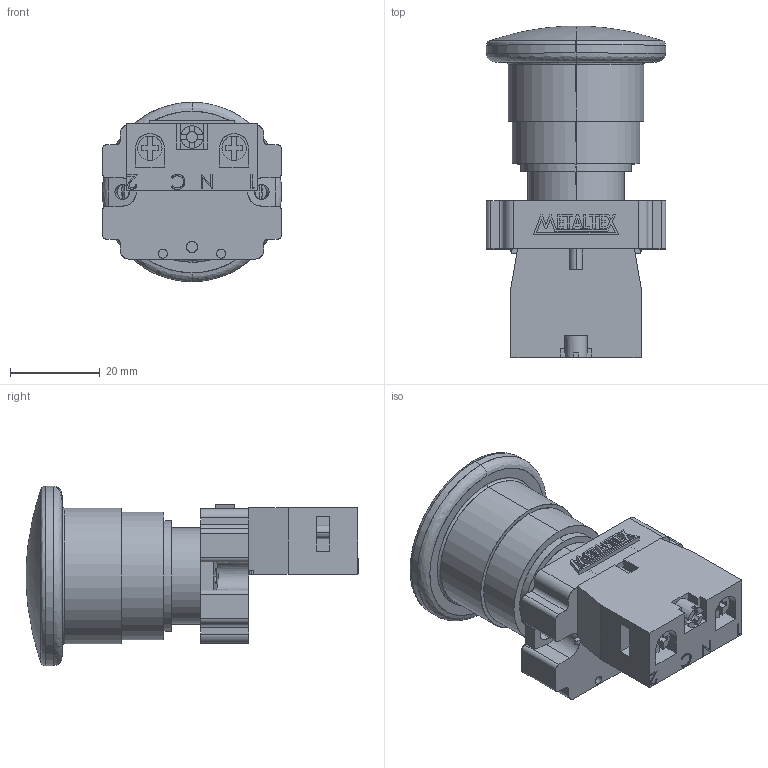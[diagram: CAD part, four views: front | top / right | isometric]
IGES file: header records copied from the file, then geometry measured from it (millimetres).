
Start section: SolidWorks IGES file using analytic representation for surfaces
Global section: file name: D:\X - Arquivos\PROEX\Empresas\P11 - METALTEX\01 - Produtos\IGES\Primeira remessa\M20AMR-B-1A.IGS; native system: SolidWorks 2012; preprocessor: SolidWorks 2012; author: Usuario; date: 180117.114605; units: millimetre
Bounding box: 40 x 74 x 40 mm (x, y, z)
Surface area: 13239.9 mm2 (no closed solid volume)
Topology: 0 solids, 0 shells, 349 faces, 3900 edges, 3898 vertices
Faces by surface type: bspline 280, revolution 69
